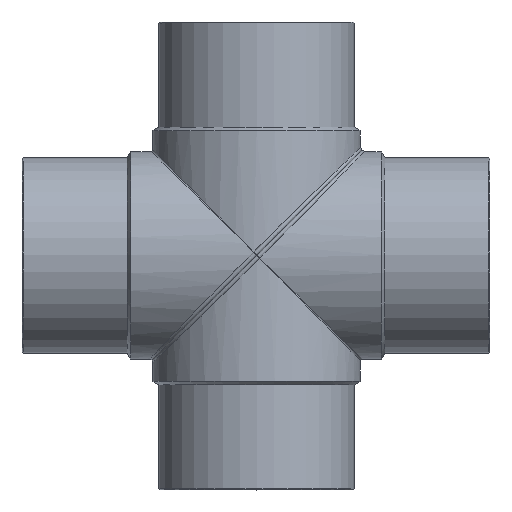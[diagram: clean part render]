
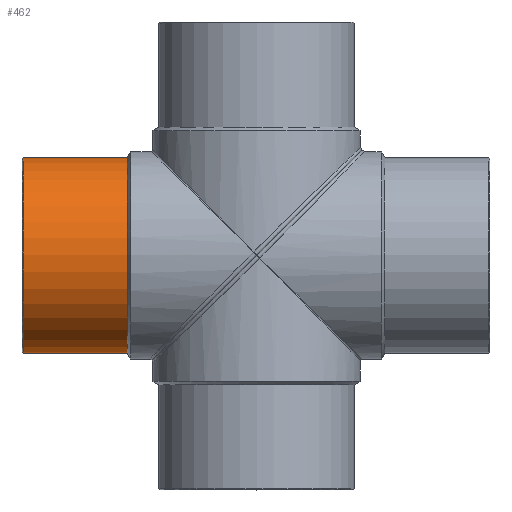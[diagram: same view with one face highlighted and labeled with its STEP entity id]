
A CAD part, top view. The second image highlights one B-rep face of the part: STEP entity #462.
In plain terms, the highlighted cylindrical face has radius 112.5 mm (diameter 225 mm), a full revolution.
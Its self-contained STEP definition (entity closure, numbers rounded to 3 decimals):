
#46=CIRCLE('',#526,112.5);
#47=CIRCLE('',#528,112.5);
#70=CYLINDRICAL_SURFACE('',#527,112.5);
#120=ORIENTED_EDGE('',*,*,#234,.T.);
#121=ORIENTED_EDGE('',*,*,#233,.T.);
#233=EDGE_CURVE('',#290,#290,#46,.T.);
#234=EDGE_CURVE('',#291,#291,#47,.T.);
#290=VERTEX_POINT('',#943);
#291=VERTEX_POINT('',#946);
#344=EDGE_LOOP('',(#120));
#345=EDGE_LOOP('',(#121));
#402=FACE_BOUND('',#344,.T.);
#403=FACE_BOUND('',#345,.T.);
#462=ADVANCED_FACE('',(#402,#403),#70,.T.);
#526=AXIS2_PLACEMENT_3D('',#942,#600,#601);
#527=AXIS2_PLACEMENT_3D('',#944,#602,#603);
#528=AXIS2_PLACEMENT_3D('',#945,#604,#605);
#600=DIRECTION('',(-1.,0.,0.));
#601=DIRECTION('',(0.,0.,1.));
#602=DIRECTION('',(-1.,0.,0.));
#603=DIRECTION('',(0.,0.,1.));
#604=DIRECTION('',(1.,0.,0.));
#605=DIRECTION('',(0.,0.,-1.));
#942=CARTESIAN_POINT('',(-149.,0.,0.));
#943=CARTESIAN_POINT('',(-149.,0.,112.5));
#944=CARTESIAN_POINT('',(-60.,0.,0.));
#945=CARTESIAN_POINT('',(-269.,0.,0.));
#946=CARTESIAN_POINT('',(-269.,0.,-112.5));
